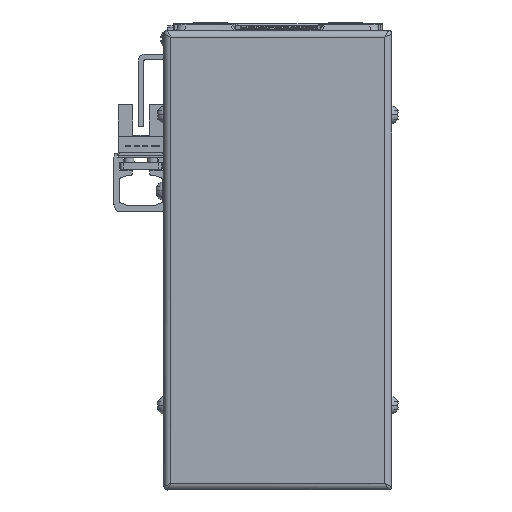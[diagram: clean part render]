
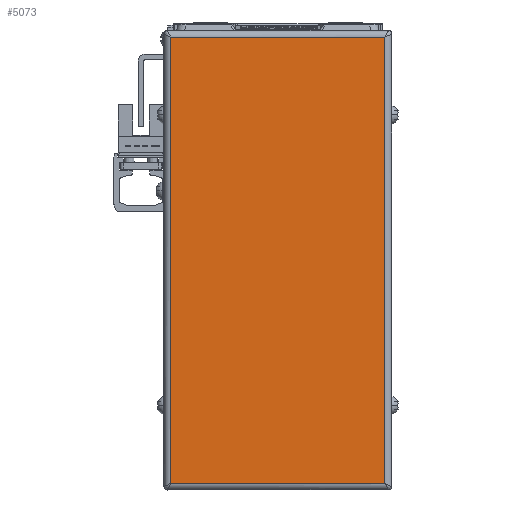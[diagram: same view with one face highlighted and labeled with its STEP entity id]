
A CAD part, left-side view. The second image highlights one B-rep face of the part: STEP entity #5073.
In plain terms, the highlighted planar face has unit normal (-1, 0, 0) as drawn and (0, 0, 1) by its records, which use the part's own axes.
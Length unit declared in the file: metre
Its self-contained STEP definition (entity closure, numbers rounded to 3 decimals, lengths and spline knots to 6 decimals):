
#5073=ADVANCED_FACE('',(#10545),#10546,.T.);
#10545=FACE_OUTER_BOUND('',#17765,.T.);
#10546=PLANE('',#17766);
#17765=EDGE_LOOP('',(#32223,#32224,#32225,#32226));
#17766=AXIS2_PLACEMENT_3D('',#32227,#32228,#32229);
#32223=ORIENTED_EDGE('',*,*,#42000,.F.);
#32224=ORIENTED_EDGE('',*,*,#41499,.F.);
#32225=ORIENTED_EDGE('',*,*,#45327,.F.);
#32226=ORIENTED_EDGE('',*,*,#45328,.F.);
#32227=CARTESIAN_POINT('',(-0.054,-0.014256,0.033889));
#32228=DIRECTION('',(0.0,0.0,1.0));
#32229=DIRECTION('',(1.0,0.0,0.0));
#41499=EDGE_CURVE('',#48406,#48402,#48408,.T.);
#42000=EDGE_CURVE('',#48402,#49293,#49294,.T.);
#45327=EDGE_CURVE('',#54524,#48406,#54525,.T.);
#45328=EDGE_CURVE('',#49293,#54524,#54526,.T.);
#48402=VERTEX_POINT('',#58441);
#48406=VERTEX_POINT('',#58455);
#48408=LINE('',#58466,#58467);
#49293=VERTEX_POINT('',#59735);
#49294=LINE('',#59736,#59737);
#54524=VERTEX_POINT('',#67569);
#54525=LINE('',#67570,#67571);
#54526=LINE('',#67572,#67573);
#58441=CARTESIAN_POINT('',(0.012,0.017444,0.033889));
#58455=CARTESIAN_POINT('',(-0.12,0.017444,0.033889));
#58466=CARTESIAN_POINT('',(-0.054,0.017444,0.033889));
#58467=VECTOR('',#72217,1.0);
#59735=CARTESIAN_POINT('',(0.012,-0.045956,0.033889));
#59736=CARTESIAN_POINT('',(0.012,-0.014256,0.033889));
#59737=VECTOR('',#72816,1.0);
#67569=CARTESIAN_POINT('',(-0.12,-0.045956,0.033889));
#67570=CARTESIAN_POINT('',(-0.12,-0.014256,0.033889));
#67571=VECTOR('',#76743,1.0);
#67572=CARTESIAN_POINT('',(-0.054,-0.045956,0.033889));
#67573=VECTOR('',#76744,1.0);
#72217=DIRECTION('',(1.0,0.0,0.0));
#72816=DIRECTION('',(0.0,-1.0,0.0));
#76743=DIRECTION('',(0.0,1.0,0.0));
#76744=DIRECTION('',(-1.0,0.0,0.0));
